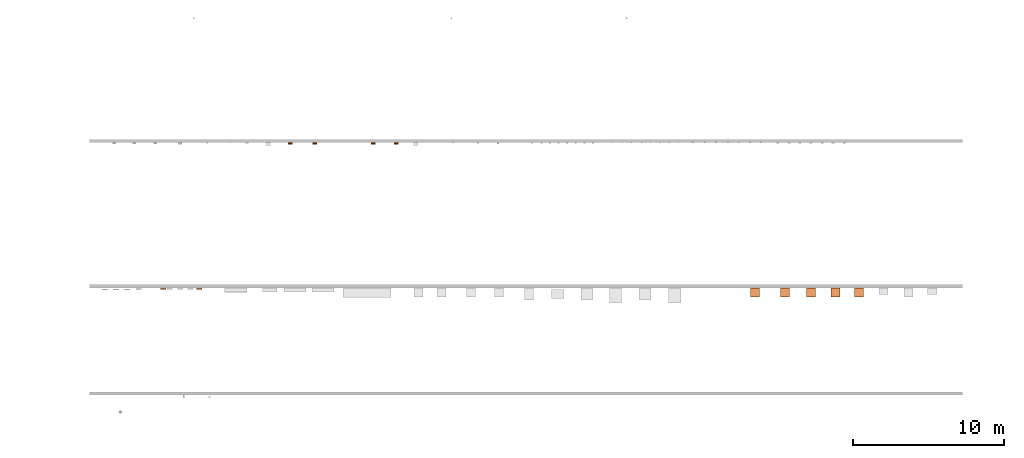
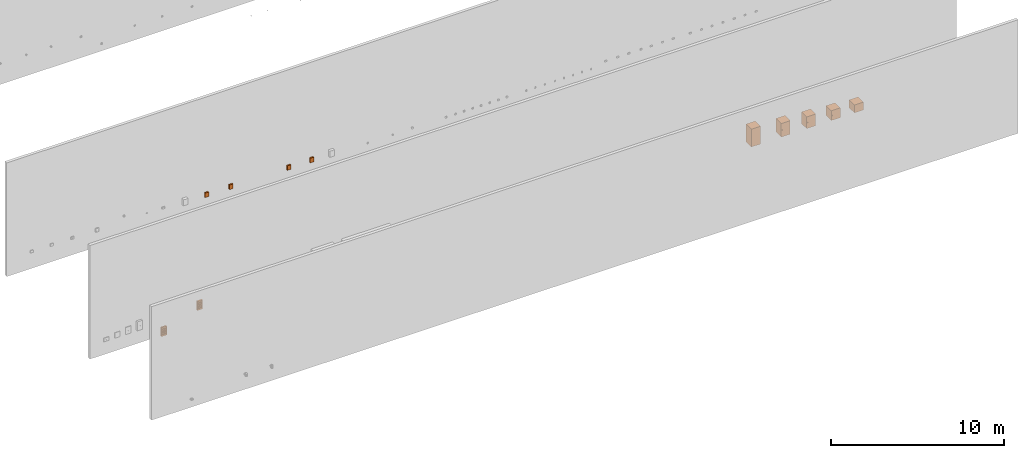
# One storey, part 49 of 197: 11 proxies.
"""IFC2X3 building model written with IfcOpenShell, lengths in metres."""

import ifcopenshell
import ifcopenshell.guid

model = None  # the IFC model being written
_history = None  # IfcOwnerHistory: only IFC2X3 demands one
_inside = {}  # id of a spatial element -> (the spatial element, [elements in it])
_under = {}  # id of a project, library or spatial element -> (it, [spatial elements below it])
_declared = {}  # id of a project -> (the project, [libraries it declares])
_typed = {}  # id of a type object -> (the type object, [elements of that type])
_made_of = {}  # id of a material, layer set ... -> (it, [elements and type objects made of it])


def new_model(schema):
    """Start an empty IFC model of exactly this schema.

    Asked for "IFC4X3", IfcOpenShell would pick the latest addendum, in which some entities
    have other attributes; the version numbers below select the first issue.
    IFC2X3 requires an IfcOwnerHistory on every rooted entity: one is made here for all.
    """
    global model, _history
    if schema == "IFC4X3":
        model = ifcopenshell.file(schema_version=(4, 3, 0, 0))
    else:
        model = ifcopenshell.file(schema=schema)
    _inside.clear()
    _under.clear()
    _declared.clear()
    _typed.clear()
    _made_of.clear()
    _history = None
    if model.schema == "IFC2X3":
        org = make("IfcOrganization", Name="unknown")
        user = make(
            "IfcPersonAndOrganization",
            ThePerson=make("IfcPerson", FamilyName="unknown"),
            TheOrganization=org,
        )
        app = make(
            "IfcApplication",
            ApplicationDeveloper=org,
            Version="unknown",
            ApplicationFullName="unknown",
            ApplicationIdentifier="unknown",
        )
        _history = make(
            "IfcOwnerHistory",
            OwningUser=user,
            OwningApplication=app,
            ChangeAction="ADDED",
            CreationDate=0,
        )
    return model


def make(cls, **values):
    """One entity of the class cls with the attributes given. An attribute that is None is left unset."""
    return model.create_entity(
        cls, **{name: value for name, value in values.items() if value is not None}
    )


def entity(cls, *values):
    """Any entity or typed value of the class cls, its attributes in the order of the schema. None: left unset."""
    e = model.create_entity(cls)
    for i, value in enumerate(values):
        if value is not None:
            e[i] = value
    return e


def rooted(cls, **values):
    """An entity with a GlobalId (a new one), such as an element, a storey or a relation."""
    return make(cls, GlobalId=ifcopenshell.guid.new(), OwnerHistory=_history, **values)


def si_unit(unit_type, name, prefix=None):
    """IfcSIUnit, for example si_unit("LENGTHUNIT", "METRE", prefix="MILLI")."""
    return make("IfcSIUnit", UnitType=unit_type, Prefix=prefix, Name=name)


def converted_unit(unit_type, name, factor, base, dimensions=None, offset=None):
    """IfcConversionBasedUnit, such as the inch: factor (a typed value) times the base unit."""
    return make(
        "IfcConversionBasedUnit"
        if offset is None
        else "IfcConversionBasedUnitWithOffset",
        ConversionOffset=offset,
        Dimensions=None
        if dimensions is None
        else entity("IfcDimensionalExponents", *dimensions),
        UnitType=unit_type,
        Name=name,
        ConversionFactor=make(
            "IfcMeasureWithUnit", ValueComponent=factor, UnitComponent=base
        ),
    )


def assignment(units):
    """IfcUnitAssignment: the units of a project."""
    return None if units is None else make("IfcUnitAssignment", Units=units)


def point(xyz):
    """IfcCartesianPoint."""
    return None if xyz is None else make("IfcCartesianPoint", Coordinates=xyz)


def direction(xyz):
    """IfcDirection."""
    return None if xyz is None else make("IfcDirection", DirectionRatios=xyz)


def frame(location, z_axis=None, x_axis=None):
    """IfcAxis2Placement3D, a coordinate frame: its origin and axes. An axis left out is left unset."""
    return make(
        "IfcAxis2Placement3D",
        Location=point(location),
        Axis=direction(z_axis),
        RefDirection=direction(x_axis),
    )


def frame_2d(location, x_axis=None):
    """IfcAxis2Placement2D, a coordinate frame in the plane: its origin and x axis."""
    return make(
        "IfcAxis2Placement2D", Location=point(location), RefDirection=direction(x_axis)
    )


def origin():
    """The frame at (0, 0, 0) with its axes left unset."""
    return frame((0.0, 0.0, 0.0))


def origin_2d_with_axis():
    """The frame at (0, 0) in the plane with the x axis (1, 0) written out."""
    return frame_2d((0.0, 0.0), x_axis=(1.0, 0.0))


def place(relative_to, where):
    """IfcLocalPlacement: puts the frame where relative to a parent placement (None: the world)."""
    return make(
        "IfcLocalPlacement", PlacementRelTo=relative_to, RelativePlacement=where
    )


def context(
    kind, dimensions, precision=None, world=None, true_north=None, identifier=None
):
    """IfcGeometricRepresentationContext, for example the 3D "Model" context."""
    return make(
        "IfcGeometricRepresentationContext",
        ContextIdentifier=identifier,
        ContextType=kind,
        CoordinateSpaceDimension=dimensions,
        Precision=precision,
        WorldCoordinateSystem=world,
        TrueNorth=true_north,
    )


def subcontext(parent, identifier, kind, view, scale=None):
    """IfcGeometricRepresentationSubContext, for example "Body" below "Model"."""
    return make(
        "IfcGeometricRepresentationSubContext",
        ContextIdentifier=identifier,
        ContextType=kind,
        ParentContext=parent,
        TargetScale=scale,
        TargetView=view,
    )


def project(units=None, contexts=None):
    """IfcProject with its units and contexts."""
    return rooted(
        "IfcProject",
        Name="project",
        RepresentationContexts=contexts,
        UnitsInContext=assignment(units),
    )


def spatial(cls, under=None, at=None, **own):
    """A site, building, storey or space (cls), placed at a placement, below another one or the project."""
    s = rooted(cls, ObjectPlacement=at, **own)
    if under is not None:
        _under.setdefault(under.id(), (under, []))[1].append(s)
    return s


def polyline(points):
    """IfcPolyline through the points."""
    return make("IfcPolyline", Points=[point(p) for p in points])


def circle_curve(where, radius):
    """IfcCircle in the frame where."""
    return make("IfcCircle", Position=where, Radius=radius)


def parameter(value):
    """IfcParameterValue: where a trimmed curve begins or ends, as a parameter of its basis curve."""
    return model.create_entity("IfcParameterValue", value)


def trimmed(basis, trim1, trim2, sense, master):
    """IfcTrimmedCurve: the piece of a basis curve between two trims."""
    return make(
        "IfcTrimmedCurve",
        BasisCurve=basis,
        Trim1=trim1,
        Trim2=trim2,
        SenseAgreement=sense,
        MasterRepresentation=master,
    )


def segment(curve, same_sense, transition):
    """IfcCompositeCurveSegment."""
    return make(
        "IfcCompositeCurveSegment",
        Transition=transition,
        SameSense=same_sense,
        ParentCurve=curve,
    )


def composite_curve(segments, self_intersect=None):
    """IfcCompositeCurve: segments joined end to end."""
    return make("IfcCompositeCurve", Segments=segments, SelfIntersect=self_intersect)


def profile(cls, at=None, kind="AREA", **sizes):
    """A parametric profile (cls). Its sizes go by their IFC names, for example OverallWidth=200.0."""
    return make(cls, ProfileType=kind, Position=at, **sizes)


def rectangle(**sizes):
    """IfcRectangleProfileDef."""
    return profile("IfcRectangleProfileDef", **sizes)


def outline(outer, holes=None, kind="AREA"):
    """IfcArbitraryClosedProfileDef: a profile drawn as a closed curve; with holes, ...WithVoids."""
    if holes is None:
        return make("IfcArbitraryClosedProfileDef", ProfileType=kind, OuterCurve=outer)
    return make(
        "IfcArbitraryProfileDefWithVoids",
        ProfileType=kind,
        OuterCurve=outer,
        InnerCurves=holes,
    )


def extrude(swept, where, along, depth):
    """IfcExtrudedAreaSolid: the profile swept, set in the frame where, extruded along a direction by depth."""
    return make(
        "IfcExtrudedAreaSolid",
        SweptArea=swept,
        Position=where,
        ExtrudedDirection=direction(along),
        Depth=depth,
    )


def faces_of(points, faces, orient=None, outer=None):
    """IfcFace entities. A face is a list of loops; a loop is a list of indices into points, from 0.

    orient and outer hold one flag for each loop. By default every Orientation is true, the
    first loop of a face is its IfcFaceOuterBound and the others are IfcFaceBound.
    """
    made = []
    for i, loops in enumerate(faces):
        bounds = []
        for j, loop in enumerate(loops):
            is_outer = j == 0 if outer is None else outer[i][j]
            bounds.append(
                make(
                    "IfcFaceOuterBound" if is_outer else "IfcFaceBound",
                    Bound=make("IfcPolyLoop", Polygon=[points[k] for k in loop]),
                    Orientation=True if orient is None else orient[i][j],
                )
            )
        made.append(make("IfcFace", Bounds=bounds))
    return made


def faceted_brep(points, faces, orient=None, outer=None, voids=None):
    """IfcFacetedBrep: a solid bounded by flat faces; with voids (closed shells), ...WithVoids."""
    shared = [point(p) for p in points]
    hull = make("IfcClosedShell", CfsFaces=faces_of(shared, faces, orient, outer))
    if voids is None:
        return make("IfcFacetedBrep", Outer=hull)
    return make(
        "IfcFacetedBrepWithVoids",
        Outer=hull,
        Voids=[
            make(cls, CfsFaces=faces_of(shared, fs, o, b)) for cls, fs, o, b in voids
        ],
    )


def shape(context_of_items, identifier, shape_type, items):
    """IfcShapeRepresentation: the items that make up one representation, for example the "Body"."""
    return make(
        "IfcShapeRepresentation",
        ContextOfItems=context_of_items,
        RepresentationIdentifier=identifier,
        RepresentationType=shape_type,
        Items=items,
    )


def source(mapping_origin, context_of_items, identifier, shape_type, items):
    """IfcRepresentationMap: a shape defined once, which mapped items show again and again."""
    return make(
        "IfcRepresentationMap",
        MappingOrigin=mapping_origin,
        MappedRepresentation=shape(context_of_items, identifier, shape_type, items),
    )


def transform(
    local_origin,
    x_axis=None,
    y_axis=None,
    z_axis=None,
    scale=None,
    scale2=None,
    scale3=None,
    uniform=True,
):
    """IfcCartesianTransformationOperator3D, or its non-uniform kind. x_axis, y_axis, z_axis: its Axis1, 2, 3."""
    if uniform:
        return make(
            "IfcCartesianTransformationOperator3D",
            Axis1=direction(x_axis),
            Axis2=direction(y_axis),
            LocalOrigin=point(local_origin),
            Scale=scale,
            Axis3=direction(z_axis),
        )
    return make(
        "IfcCartesianTransformationOperator3DnonUniform",
        Axis1=direction(x_axis),
        Axis2=direction(y_axis),
        LocalOrigin=point(local_origin),
        Scale=scale,
        Axis3=direction(z_axis),
        Scale2=scale2,
        Scale3=scale3,
    )


def mapped(mapping_source, mapping_target):
    """IfcMappedItem: shows the shape of a source again, moved by a transform."""
    return make(
        "IfcMappedItem", MappingSource=mapping_source, MappingTarget=mapping_target
    )


def material(Name=None, Category=None):
    """IfcMaterial."""
    return make("IfcMaterial", Name=Name, Category=Category)


def material_list(materials):
    """IfcMaterialList."""
    return make("IfcMaterialList", Materials=materials)


def made_of(thing, what):
    """Note that an element or type object is made of a material, layer set ...; save() writes the relation."""
    if what is not None:
        _made_of.setdefault(what.id(), (what, []))[1].append(thing)
    return thing


def type_object(cls, material=None, **own):
    """A type object (cls), such as IfcWallType, which elements share."""
    return made_of(rooted(cls, **own), material)


def type_shapes(of_type, sources):
    """Give a type object the sources (RepresentationMaps) that its elements show as mapped items."""
    of_type.RepresentationMaps = sources


def element(
    cls,
    number,
    at=None,
    inside=None,
    cuts=None,
    type_object=None,
    material=None,
    context=None,
    identifier="Body",
    shape_type=None,
    held_by="IfcProductDefinitionShape",
    body=None,
    shapes=None,
    **own,
):
    """One element of the class cls, such as IfcWall. Its Tag is "e" and its number.

    at: its placement. inside: the storey or other place that contains it. cuts: it is an
    opening in that element (IfcRelVoidsElement). A single representation is given by context,
    identifier, shape_type and body (its items); several are given by shapes. held_by: the class
    of the entity that holds the representations. save() writes the other relations.
    """
    e = rooted(cls, Tag="e%d" % number, ObjectPlacement=at, **own)
    if body is not None:
        shapes = [shape(context, identifier, shape_type, body)]
    if shapes is not None:
        e.Representation = make(held_by, Representations=shapes)
    if inside is not None:
        _inside.setdefault(inside.id(), (inside, []))[1].append(e)
    if cuts is not None:
        rooted(
            "IfcRelVoidsElement", RelatingBuildingElement=cuts, RelatedOpeningElement=e
        )
    if type_object is not None:
        _typed.setdefault(type_object.id(), (type_object, []))[1].append(e)
    return made_of(e, material)


def aggregate(whole, parts):
    """IfcRelAggregates: a whole, such as a stair, and the parts it consists of."""
    return rooted("IfcRelAggregates", RelatingObject=whole, RelatedObjects=parts)


def save(model, path):
    """Write the relations noted so far, then the file.

    IfcRelAggregates (storeys below a building ...), IfcRelContainedInSpatialStructure (elements
    in a storey), IfcRelDefinesByType, IfcRelAssociatesMaterial and IfcRelDeclares: one each for
    every whole, place, type object, material and project.
    """
    for whole, parts in _under.values():
        aggregate(whole, parts)
    for where, things in _inside.values():
        rooted(
            "IfcRelContainedInSpatialStructure",
            RelatedElements=things,
            RelatingStructure=where,
        )
    for kind, things in _typed.values():
        rooted("IfcRelDefinesByType", RelatedObjects=things, RelatingType=kind)
    for what, things in _made_of.values():
        rooted("IfcRelAssociatesMaterial", RelatedObjects=things, RelatingMaterial=what)
    for by, libraries in _declared.values():
        rooted("IfcRelDeclares", RelatingContext=by, RelatedDefinitions=libraries)
    model.write(path)


model = new_model("IFC2X3")

# Units and contexts
model_context = context("Model", 3, precision=1e-05, world=origin(), true_north=direction((6.123031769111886e-17, 1.0)))
body_context = subcontext(model_context, "Body", "Model", "MODEL_VIEW")
ifc_project = project(units=[si_unit("LENGTHUNIT", "METRE"), converted_unit("PLANEANGLEUNIT", "DEGREE", entity("IfcPlaneAngleMeasure", 0.017453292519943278), si_unit("PLANEANGLEUNIT", "RADIAN"), dimensions=[0, 0, 0, 0, 0, 0, 0]), si_unit("AREAUNIT", "SQUARE_METRE")], contexts=[model_context])

# Site, building, storey
site_placement = place(None, origin())
site = spatial("IfcSite", under=ifc_project, at=site_placement, Name="Default", CompositionType="ELEMENT")
building_placement = place(site_placement, origin())
building = spatial("IfcBuilding", under=site, at=building_placement, CompositionType="ELEMENT")
storey_placement = place(building_placement, origin())
storey = spatial("IfcBuildingStorey", under=building, at=storey_placement, Name="Niveau 0", CompositionType="ELEMENT", Elevation=0.0)

# Proxies
ifc_material_1 = material(Name="<Unnamed>")
building_element_proxy_type_1 = type_object("IfcBuildingElementProxyType", Name="Coffret UTL:UTL contrôle accés - alim non secourue-8E/4S", PredefinedType="NOTDEFINED", material=ifc_material_1)
shared_shape_1 = source(origin(), body_context, "Body", "SweptSolid", [
    extrude(rectangle(XDim=0.25, YDim=0.09300000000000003, at=origin_2d_with_axis()), frame((0.0, -0.0465000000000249, 0.0), z_axis=(0.0, 0.0, 1.0), x_axis=(-1.0, 0.0, 0.0)), (0.0, 0.0, 1.0), 0.32700000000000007),
])
type_shapes(building_element_proxy_type_1, [shared_shape_1])
proxy_1_placement = place(storey_placement, frame((-521.605257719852, -41.558644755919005, 1.0)))
element("IfcBuildingElementProxy", 1, at=proxy_1_placement, inside=storey, type_object=building_element_proxy_type_1, material=ifc_material_1, Name="Coffret UTL:UTL contrôle accés - alim non secourue-8E/4S", ObjectType="Coffret UTL:UTL contrôle accés - alim non secourue-8E/4S", context=body_context, shape_type="MappedRepresentation", body=[
    mapped(shared_shape_1, transform((0.0, 0.0, 0.0), scale=1.0)),
])
building_element_proxy_type_2 = type_object("IfcBuildingElementProxyType", Name="Coffret UTL:UTL contrôle accés - alim secourue-8E/4S", PredefinedType="NOTDEFINED", material=ifc_material_1)
shared_shape_2 = source(origin(), body_context, "Body", "SweptSolid", [
    extrude(rectangle(XDim=0.25, YDim=0.09300000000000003, at=origin_2d_with_axis()), frame((0.0, -0.0465000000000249, 0.0), z_axis=(0.0, 0.0, 1.0), x_axis=(-1.0, 0.0, 0.0)), (0.0, 0.0, 1.0), 0.32700000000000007),
])
type_shapes(building_element_proxy_type_2, [shared_shape_2])
proxy_2_placement = place(storey_placement, frame((-520.086257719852, -41.55864475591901, 1.0)))
element("IfcBuildingElementProxy", 2, at=proxy_2_placement, inside=storey, type_object=building_element_proxy_type_2, material=ifc_material_1, Name="Coffret UTL:UTL contrôle accés - alim secourue-8E/4S", ObjectType="Coffret UTL:UTL contrôle accés - alim secourue-8E/4S", context=body_context, shape_type="MappedRepresentation", body=[
    mapped(shared_shape_2, transform((0.0, 0.0, 0.0), scale=1.0)),
])
building_element_proxy_type_3 = type_object("IfcBuildingElementProxyType", Name="Coffret UTL:UTL intrusion - alim non secourue-8E/4S", PredefinedType="NOTDEFINED", material=ifc_material_1)
shared_shape_3 = source(origin(), body_context, "Body", "SweptSolid", [
    extrude(rectangle(XDim=0.25, YDim=0.09300000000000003, at=origin_2d_with_axis()), frame((0.0, -0.0465000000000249, 0.0), z_axis=(0.0, 0.0, 1.0), x_axis=(-1.0, 0.0, 0.0)), (0.0, 0.0, 1.0), 0.32700000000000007),
])
type_shapes(building_element_proxy_type_3, [shared_shape_3])
proxy_3_placement = place(storey_placement, frame((-527.0854678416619, -41.55864475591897, 1.0)))
element("IfcBuildingElementProxy", 3, at=proxy_3_placement, inside=storey, type_object=building_element_proxy_type_3, material=ifc_material_1, Name="Coffret UTL:UTL intrusion - alim non secourue-8E/4S", ObjectType="Coffret UTL:UTL intrusion - alim non secourue-8E/4S", context=body_context, shape_type="MappedRepresentation", body=[
    mapped(shared_shape_3, transform((0.0, 0.0, 0.0), scale=1.0)),
])
building_element_proxy_type_4 = type_object("IfcBuildingElementProxyType", Name="Coffret UTL:UTL intrusion - alim secourue-8E/4S", PredefinedType="NOTDEFINED", material=ifc_material_1)
shared_shape_4 = source(origin(), body_context, "Body", "SweptSolid", [
    extrude(rectangle(XDim=0.25, YDim=0.09300000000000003, at=origin_2d_with_axis()), frame((0.0, -0.0465000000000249, 0.0), z_axis=(0.0, 0.0, 1.0), x_axis=(-1.0, 0.0, 0.0)), (0.0, 0.0, 1.0), 0.32700000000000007),
])
type_shapes(building_element_proxy_type_4, [shared_shape_4])
proxy_4_placement = place(storey_placement, frame((-525.4634678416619, -41.558644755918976, 1.0)))
element("IfcBuildingElementProxy", 4, at=proxy_4_placement, inside=storey, type_object=building_element_proxy_type_4, material=ifc_material_1, Name="Coffret UTL:UTL intrusion - alim secourue-8E/4S", ObjectType="Coffret UTL:UTL intrusion - alim secourue-8E/4S", context=body_context, shape_type="MappedRepresentation", body=[
    mapped(shared_shape_4, transform((0.0, 0.0, 0.0), scale=1.0)),
])
ifc_material_2 = material(Name="BETCE-TABLEAU-BLANC")
building_element_proxy_type_5 = type_object("IfcBuildingElementProxyType", Name="Coffret mural 18 modules:72M-4R", PredefinedType="NOTDEFINED", material=ifc_material_2)
shared_shape_5 = source(origin(), body_context, "Body", "Brep", [
    faceted_brep([(0.17750000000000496, -0.1034999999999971, 0.6249999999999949), (-0.17749999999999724, -0.1034999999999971, 0.6249999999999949), (-0.1775, -0.1034999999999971, 0.0), (0.17750000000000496, -0.1034999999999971, 0.0), (-0.1619999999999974, -0.1034999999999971, 0.1475000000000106), (0.1620000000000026, -0.1034999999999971, 0.1475000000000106), (0.1620000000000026, -0.1034999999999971, 0.10250000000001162), (-0.16199999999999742, -0.1034999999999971, 0.10250000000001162), (-0.1619999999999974, -0.1034999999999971, 0.2725000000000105), (0.1620000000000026, -0.1034999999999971, 0.2725000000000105), (0.1620000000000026, -0.1034999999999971, 0.22750000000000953), (-0.16199999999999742, -0.1034999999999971, 0.22750000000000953), (-0.1619999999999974, -0.1034999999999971, 0.5225000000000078), (0.1620000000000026, -0.1034999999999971, 0.5225000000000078), (0.1620000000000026, -0.1034999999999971, 0.47750000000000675), (-0.16199999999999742, -0.1034999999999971, 0.47750000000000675), (-0.1619999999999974, -0.1034999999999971, 0.39750000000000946), (0.1620000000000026, -0.1034999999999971, 0.39750000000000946), (0.1620000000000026, -0.1034999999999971, 0.3525000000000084), (-0.16199999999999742, -0.1034999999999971, 0.3525000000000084), (0.17750000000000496, 0.0, 0.6249999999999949), (0.17750000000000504, 0.0, 0.0), (-0.1775, 0.0, 0.0), (-0.17749999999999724, 0.0, 0.6249999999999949), (0.16200000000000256, -0.01, 0.1475000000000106), (-0.16199999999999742, -0.01, 0.1475000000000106), (-0.16199999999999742, -0.01, 0.10250000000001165), (0.16200000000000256, -0.01, 0.10250000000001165), (0.16200000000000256, -0.01, 0.2725000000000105), (-0.16199999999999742, -0.01, 0.2725000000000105), (-0.16199999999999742, -0.01, 0.22750000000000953), (0.16200000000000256, -0.01, 0.22750000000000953), (0.16200000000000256, -0.01, 0.5225000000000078), (-0.16199999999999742, -0.01, 0.5225000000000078), (-0.16199999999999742, -0.01, 0.47750000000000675), (0.16200000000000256, -0.01, 0.47750000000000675), (0.16200000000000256, -0.01, 0.39750000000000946), (-0.16199999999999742, -0.01, 0.39750000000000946), (-0.16199999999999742, -0.01, 0.3525000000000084), (0.16200000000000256, -0.01, 0.3525000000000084)], [[[0, 1, 2, 3], [4, 5, 6, 7], [8, 9, 10, 11], [12, 13, 14, 15], [16, 17, 18, 19]], [[20, 21, 22, 23]], [[1, 0, 20, 23]], [[2, 1, 23, 22]], [[3, 2, 22, 21]], [[0, 3, 21, 20]], [[24, 25, 26, 27]], [[25, 24, 5, 4]], [[26, 25, 4, 7]], [[27, 26, 7, 6]], [[24, 27, 6, 5]], [[28, 29, 30, 31]], [[29, 28, 9, 8]], [[30, 29, 8, 11]], [[31, 30, 11, 10]], [[28, 31, 10, 9]], [[32, 33, 34, 35]], [[33, 32, 13, 12]], [[34, 33, 12, 15]], [[35, 34, 15, 14]], [[32, 35, 14, 13]], [[36, 37, 38, 39]], [[37, 36, 17, 16]], [[38, 37, 16, 19]], [[39, 38, 19, 18]], [[36, 39, 18, 17]]]),
])
type_shapes(building_element_proxy_type_5, [shared_shape_5])
for number, where, name in (
    (5, (-533.0953416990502, -51.152644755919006, 1.0), "Coffret mural 18 modules:72M-4R"),
    (6, (-535.4855951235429, -51.152644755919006, 0.0), "Coffret mural 18 modules:72M-4R"),
):
    element("IfcBuildingElementProxy", number, at=place(storey_placement, frame(where)), inside=storey, type_object=building_element_proxy_type_5, material=ifc_material_2, Name=name, ObjectType="Coffret mural 18 modules:72M-4R", context=body_context, shape_type="MappedRepresentation", body=[
        mapped(shared_shape_5, transform((0.0, 0.0, 0.0), scale=1.0)),
    ])
ifc_material_3 = material(Name="A-PVC NOIR")
ifc_material_4 = material(Name="A-VERRE")
ifc_material_list = material_list([ifc_material_3, ifc_material_4])
building_element_proxy_type_6 = type_object("IfcBuildingElementProxyType", Name="Coffret de brassage mural:22U-600x600x1200", PredefinedType="NOTDEFINED", material=ifc_material_list)
shared_shape_6 = source(origin(), body_context, "Body", "SweptSolid", [
    extrude(outline(composite_curve([segment(polyline([(0.0008223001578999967, -0.003777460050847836), (0.010844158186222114, -0.003777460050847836)]), True, "CONTINUOUS"), segment(polyline([(0.010844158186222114, -0.003777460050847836), (0.010844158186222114, -0.0028735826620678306)]), True, "CONTINUOUS"), segment(trimmed(circle_curve(frame_2d((0.008844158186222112, -0.0028735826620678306), x_axis=(-1.0, 0.0)), 0.002), [parameter(180.00000000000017)], [parameter(238.15936917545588)], True, "PARAMETER"), True, "CONTINUOUS"), segment(trimmed(circle_curve(frame_2d((-0.014278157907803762, -0.04010707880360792), x_axis=(-1.0, 0.0)), 0.04582892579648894), [parameter(238.1593691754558)], [parameter(270.2235478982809)], True, "PARAMETER"), True, "CONTINUOUS"), segment(polyline([(-0.014456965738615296, 0.0057214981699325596), (-0.014456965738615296, 0.004721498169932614)]), True, "CONTINUOUS"), segment(polyline([(-0.014456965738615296, 0.004721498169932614), (-0.0034959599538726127, 0.001160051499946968)]), True, "CONTINUOUS"), segment(trimmed(circle_curve(frame_2d((-0.005473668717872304, -0.004926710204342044), x_axis=(-1.0, 0.0)), 0.0064), [parameter(190.34473412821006)], [parameter(251.99999999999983)], True, "PARAMETER"), False, "CONTINUOUS")], self_intersect=False)), frame((-0.23015584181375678, -0.30377746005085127, 0.5959999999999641), z_axis=(0.0, 0.0, 1.0), x_axis=(-1.0, 0.0, 0.0)), (0.0, 0.0, 1.0), 0.06000000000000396),
    extrude(rectangle(XDim=0.4999999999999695, YDim=0.005000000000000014, at=origin_2d_with_axis()), frame((0.0, -0.2975000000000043, 0.05199999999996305)), (0.0, 0.0, 1.0), 1.1479999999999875),
    extrude(rectangle(XDim=0.5999999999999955, YDim=0.5999999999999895, at=origin_2d_with_axis()), frame((0.0, 0.0, 1.199999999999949), z_axis=(0.0, 0.0, 1.0), x_axis=(-1.0, 0.0, 0.0)), (0.0, 0.0, 1.0), 0.0520000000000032),
    extrude(rectangle(XDim=0.5999999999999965, YDim=0.5999999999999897, at=origin_2d_with_axis()), frame((0.0, 0.0, 0.0), z_axis=(0.0, 0.0, 1.0), x_axis=(-1.0, 0.0, 0.0)), (0.0, 0.0, 1.0), 0.052000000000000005),
    extrude(outline(polyline([(-0.2999999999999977, -0.435699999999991), (0.2999999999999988, -0.435699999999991), (0.2999999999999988, 0.16429999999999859), (0.24999999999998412, 0.16429999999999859), (0.24999999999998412, 0.05429999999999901), (0.2249999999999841, 0.05429999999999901), (0.2249999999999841, 0.053299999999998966), (0.2509999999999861, 0.053299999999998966), (0.2509999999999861, 0.16329999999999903), (0.29899999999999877, 0.16329999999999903), (0.29899999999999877, -0.4346999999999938), (-0.2989999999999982, -0.4346999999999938), (-0.2989999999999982, 0.16329999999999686), (-0.2509999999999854, 0.16329999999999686), (-0.2509999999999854, 0.05329999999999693), (-0.22499999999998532, 0.05329999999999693), (-0.22499999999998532, 0.05429999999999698), (-0.2499999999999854, 0.05429999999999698), (-0.2499999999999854, 0.16429999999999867), (-0.2999999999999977, 0.16429999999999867), (-0.2999999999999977, -0.435699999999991)])), frame((0.0, -0.13570000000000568, 0.05199999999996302), z_axis=(0.0, 0.0, 1.0), x_axis=(-1.0, 0.0, 0.0)), (0.0, 0.0, 1.0), 1.1479999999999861),
])
type_shapes(building_element_proxy_type_6, [shared_shape_6])
proxy_5_placement = place(storey_placement, frame((-496.351595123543, -51.45264475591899, 0.0)))
element("IfcBuildingElementProxy", 7, at=proxy_5_placement, inside=storey, type_object=building_element_proxy_type_6, material=ifc_material_list, Name="Coffret de brassage mural:22U-600x600x1200", ObjectType="Coffret de brassage mural:22U-600x600x1200", context=body_context, shape_type="MappedRepresentation", body=[
    mapped(shared_shape_6, transform((0.0, 0.0, 0.0), scale=1.0)),
])
building_element_proxy_type_7 = type_object("IfcBuildingElementProxyType", Name="Coffret de brassage mural:18U-600x600x900", PredefinedType="NOTDEFINED", material=ifc_material_list)
shared_shape_7 = source(origin(), body_context, "Body", "SweptSolid", [
    extrude(outline(composite_curve([segment(polyline([(0.0008223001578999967, -0.003777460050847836), (0.010844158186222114, -0.003777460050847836)]), True, "CONTINUOUS"), segment(polyline([(0.010844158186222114, -0.003777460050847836), (0.010844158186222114, -0.0028735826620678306)]), True, "CONTINUOUS"), segment(trimmed(circle_curve(frame_2d((0.008844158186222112, -0.0028735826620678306), x_axis=(-1.0, 0.0)), 0.002), [parameter(180.00000000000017)], [parameter(238.15936917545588)], True, "PARAMETER"), True, "CONTINUOUS"), segment(trimmed(circle_curve(frame_2d((-0.014278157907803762, -0.04010707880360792), x_axis=(-1.0, 0.0)), 0.04582892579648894), [parameter(238.1593691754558)], [parameter(270.2235478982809)], True, "PARAMETER"), True, "CONTINUOUS"), segment(polyline([(-0.014456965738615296, 0.0057214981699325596), (-0.014456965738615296, 0.004721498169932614)]), True, "CONTINUOUS"), segment(polyline([(-0.014456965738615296, 0.004721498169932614), (-0.0034959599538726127, 0.001160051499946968)]), True, "CONTINUOUS"), segment(trimmed(circle_curve(frame_2d((-0.005473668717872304, -0.004926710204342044), x_axis=(-1.0, 0.0)), 0.0064), [parameter(190.34473412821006)], [parameter(251.99999999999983)], True, "PARAMETER"), False, "CONTINUOUS")], self_intersect=False)), frame((-0.23015584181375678, -0.30377746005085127, 0.44599999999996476), z_axis=(0.0, 0.0, 1.0), x_axis=(-1.0, 0.0, 0.0)), (0.0, 0.0, 1.0), 0.06000000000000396),
    extrude(rectangle(XDim=0.4999999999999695, YDim=0.005000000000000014, at=origin_2d_with_axis()), frame((0.0, -0.2975000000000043, 0.05199999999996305)), (0.0, 0.0, 1.0), 0.8479999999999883),
    extrude(rectangle(XDim=0.5999999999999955, YDim=0.5999999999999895, at=origin_2d_with_axis()), frame((0.0, 0.0, 0.89999999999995), z_axis=(0.0, 0.0, 1.0), x_axis=(-1.0, 0.0, 0.0)), (0.0, 0.0, 1.0), 0.0520000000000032),
    extrude(rectangle(XDim=0.5999999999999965, YDim=0.5999999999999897, at=origin_2d_with_axis()), frame((0.0, 0.0, 0.0), z_axis=(0.0, 0.0, 1.0), x_axis=(-1.0, 0.0, 0.0)), (0.0, 0.0, 1.0), 0.052000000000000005),
    extrude(outline(polyline([(-0.2999999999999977, -0.435699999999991), (0.2999999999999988, -0.435699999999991), (0.2999999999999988, 0.16429999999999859), (0.24999999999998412, 0.16429999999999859), (0.24999999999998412, 0.05429999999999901), (0.2249999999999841, 0.05429999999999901), (0.2249999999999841, 0.053299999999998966), (0.2509999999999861, 0.053299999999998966), (0.2509999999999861, 0.16329999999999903), (0.29899999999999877, 0.16329999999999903), (0.29899999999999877, -0.4346999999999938), (-0.2989999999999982, -0.4346999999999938), (-0.2989999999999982, 0.16329999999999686), (-0.2509999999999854, 0.16329999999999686), (-0.2509999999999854, 0.05329999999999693), (-0.22499999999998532, 0.05329999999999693), (-0.22499999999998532, 0.05429999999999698), (-0.2499999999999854, 0.05429999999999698), (-0.2499999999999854, 0.16429999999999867), (-0.2999999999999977, 0.16429999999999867), (-0.2999999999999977, -0.435699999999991)])), frame((0.0, -0.13570000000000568, 0.05199999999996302), z_axis=(0.0, 0.0, 1.0), x_axis=(-1.0, 0.0, 0.0)), (0.0, 0.0, 1.0), 0.847999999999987),
])
type_shapes(building_element_proxy_type_7, [shared_shape_7])
proxy_6_placement = place(storey_placement, frame((-494.364595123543, -51.45264475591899, 0.0)))
element("IfcBuildingElementProxy", 8, at=proxy_6_placement, inside=storey, type_object=building_element_proxy_type_7, material=ifc_material_list, Name="Coffret de brassage mural:18U-600x600x900", ObjectType="Coffret de brassage mural:18U-600x600x900", context=body_context, shape_type="MappedRepresentation", body=[
    mapped(shared_shape_7, transform((0.0, 0.0, 0.0), scale=1.0)),
])
building_element_proxy_type_8 = type_object("IfcBuildingElementProxyType", Name="Coffret de brassage mural:15U-600x600x770", PredefinedType="NOTDEFINED", material=ifc_material_list)
shared_shape_8 = source(origin(), body_context, "Body", "SweptSolid", [
    extrude(outline(composite_curve([segment(polyline([(0.0008223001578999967, -0.003777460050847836), (0.010844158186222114, -0.003777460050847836)]), True, "CONTINUOUS"), segment(polyline([(0.010844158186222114, -0.003777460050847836), (0.010844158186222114, -0.0028735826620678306)]), True, "CONTINUOUS"), segment(trimmed(circle_curve(frame_2d((0.008844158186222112, -0.0028735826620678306), x_axis=(-1.0, 0.0)), 0.002), [parameter(180.00000000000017)], [parameter(238.15936917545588)], True, "PARAMETER"), True, "CONTINUOUS"), segment(trimmed(circle_curve(frame_2d((-0.014278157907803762, -0.04010707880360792), x_axis=(-1.0, 0.0)), 0.04582892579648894), [parameter(238.1593691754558)], [parameter(270.2235478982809)], True, "PARAMETER"), True, "CONTINUOUS"), segment(polyline([(-0.014456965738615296, 0.0057214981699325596), (-0.014456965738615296, 0.004721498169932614)]), True, "CONTINUOUS"), segment(polyline([(-0.014456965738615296, 0.004721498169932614), (-0.0034959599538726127, 0.001160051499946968)]), True, "CONTINUOUS"), segment(trimmed(circle_curve(frame_2d((-0.005473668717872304, -0.004926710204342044), x_axis=(-1.0, 0.0)), 0.0064), [parameter(190.34473412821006)], [parameter(251.99999999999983)], True, "PARAMETER"), False, "CONTINUOUS")], self_intersect=False)), frame((-0.23015584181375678, -0.30377746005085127, 0.38099999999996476), z_axis=(0.0, 0.0, 1.0), x_axis=(-1.0, 0.0, 0.0)), (0.0, 0.0, 1.0), 0.06000000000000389),
    extrude(rectangle(XDim=0.4999999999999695, YDim=0.005000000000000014, at=origin_2d_with_axis()), frame((0.0, -0.2975000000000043, 0.05199999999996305)), (0.0, 0.0, 1.0), 0.7179999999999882),
    extrude(rectangle(XDim=0.5999999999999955, YDim=0.5999999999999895, at=origin_2d_with_axis()), frame((0.0, 0.0, 0.76999999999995), z_axis=(0.0, 0.0, 1.0), x_axis=(-1.0, 0.0, 0.0)), (0.0, 0.0, 1.0), 0.0520000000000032),
    extrude(rectangle(XDim=0.5999999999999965, YDim=0.5999999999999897, at=origin_2d_with_axis()), frame((0.0, 0.0, 0.0), z_axis=(0.0, 0.0, 1.0), x_axis=(-1.0, 0.0, 0.0)), (0.0, 0.0, 1.0), 0.052000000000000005),
    extrude(outline(polyline([(-0.2999999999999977, -0.435699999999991), (0.2999999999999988, -0.435699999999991), (0.2999999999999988, 0.16429999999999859), (0.24999999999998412, 0.16429999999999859), (0.24999999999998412, 0.05429999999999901), (0.2249999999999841, 0.05429999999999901), (0.2249999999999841, 0.053299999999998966), (0.2509999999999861, 0.053299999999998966), (0.2509999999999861, 0.16329999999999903), (0.29899999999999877, 0.16329999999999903), (0.29899999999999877, -0.4346999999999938), (-0.2989999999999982, -0.4346999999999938), (-0.2989999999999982, 0.16329999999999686), (-0.2509999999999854, 0.16329999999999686), (-0.2509999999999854, 0.05329999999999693), (-0.22499999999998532, 0.05329999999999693), (-0.22499999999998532, 0.05429999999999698), (-0.2499999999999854, 0.05429999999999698), (-0.2499999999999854, 0.16429999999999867), (-0.2999999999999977, 0.16429999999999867), (-0.2999999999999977, -0.435699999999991)])), frame((0.0, -0.13570000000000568, 0.05199999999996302), z_axis=(0.0, 0.0, 1.0), x_axis=(-1.0, 0.0, 0.0)), (0.0, 0.0, 1.0), 0.7179999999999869),
])
type_shapes(building_element_proxy_type_8, [shared_shape_8])
proxy_7_placement = place(storey_placement, frame((-492.66459512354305, -51.45264475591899, 0.0)))
element("IfcBuildingElementProxy", 9, at=proxy_7_placement, inside=storey, type_object=building_element_proxy_type_8, material=ifc_material_list, Name="Coffret de brassage mural:15U-600x600x770", ObjectType="Coffret de brassage mural:15U-600x600x770", context=body_context, shape_type="MappedRepresentation", body=[
    mapped(shared_shape_8, transform((0.0, 0.0, 0.0), scale=1.0)),
])
building_element_proxy_type_9 = type_object("IfcBuildingElementProxyType", Name="Coffret de brassage mural:12U-600x600x635", PredefinedType="NOTDEFINED", material=ifc_material_list)
shared_shape_9 = source(origin(), body_context, "Body", "SweptSolid", [
    extrude(outline(composite_curve([segment(polyline([(0.0008223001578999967, -0.003777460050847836), (0.010844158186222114, -0.003777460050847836)]), True, "CONTINUOUS"), segment(polyline([(0.010844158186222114, -0.003777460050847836), (0.010844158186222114, -0.0028735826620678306)]), True, "CONTINUOUS"), segment(trimmed(circle_curve(frame_2d((0.008844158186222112, -0.0028735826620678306), x_axis=(-1.0, 0.0)), 0.002), [parameter(180.00000000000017)], [parameter(238.15936917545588)], True, "PARAMETER"), True, "CONTINUOUS"), segment(trimmed(circle_curve(frame_2d((-0.014278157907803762, -0.04010707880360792), x_axis=(-1.0, 0.0)), 0.04582892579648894), [parameter(238.1593691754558)], [parameter(270.2235478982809)], True, "PARAMETER"), True, "CONTINUOUS"), segment(polyline([(-0.014456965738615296, 0.0057214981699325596), (-0.014456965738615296, 0.004721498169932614)]), True, "CONTINUOUS"), segment(polyline([(-0.014456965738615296, 0.004721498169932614), (-0.0034959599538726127, 0.001160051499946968)]), True, "CONTINUOUS"), segment(trimmed(circle_curve(frame_2d((-0.005473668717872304, -0.004926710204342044), x_axis=(-1.0, 0.0)), 0.0064), [parameter(190.34473412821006)], [parameter(251.99999999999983)], True, "PARAMETER"), False, "CONTINUOUS")], self_intersect=False)), frame((-0.23015584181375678, -0.30377746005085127, 0.3134999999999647), z_axis=(0.0, 0.0, 1.0), x_axis=(-1.0, 0.0, 0.0)), (0.0, 0.0, 1.0), 0.06000000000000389),
    extrude(rectangle(XDim=0.4999999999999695, YDim=0.005000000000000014, at=origin_2d_with_axis()), frame((0.0, -0.2975000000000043, 0.05199999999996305)), (0.0, 0.0, 1.0), 0.582999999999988),
    extrude(rectangle(XDim=0.5999999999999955, YDim=0.5999999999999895, at=origin_2d_with_axis()), frame((0.0, 0.0, 0.6349999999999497), z_axis=(0.0, 0.0, 1.0), x_axis=(-1.0, 0.0, 0.0)), (0.0, 0.0, 1.0), 0.0520000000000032),
    extrude(rectangle(XDim=0.5999999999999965, YDim=0.5999999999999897, at=origin_2d_with_axis()), frame((0.0, 0.0, 0.0), z_axis=(0.0, 0.0, 1.0), x_axis=(-1.0, 0.0, 0.0)), (0.0, 0.0, 1.0), 0.052000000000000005),
    extrude(outline(polyline([(-0.2999999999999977, -0.435699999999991), (0.2999999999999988, -0.435699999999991), (0.2999999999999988, 0.16429999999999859), (0.24999999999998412, 0.16429999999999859), (0.24999999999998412, 0.05429999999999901), (0.2249999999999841, 0.05429999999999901), (0.2249999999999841, 0.053299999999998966), (0.2509999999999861, 0.053299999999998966), (0.2509999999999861, 0.16329999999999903), (0.29899999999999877, 0.16329999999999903), (0.29899999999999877, -0.4346999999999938), (-0.2989999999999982, -0.4346999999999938), (-0.2989999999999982, 0.16329999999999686), (-0.2509999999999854, 0.16329999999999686), (-0.2509999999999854, 0.05329999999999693), (-0.22499999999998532, 0.05329999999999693), (-0.22499999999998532, 0.05429999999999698), (-0.2499999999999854, 0.05429999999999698), (-0.2499999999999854, 0.16429999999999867), (-0.2999999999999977, 0.16429999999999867), (-0.2999999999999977, -0.435699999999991)])), frame((0.0, -0.13570000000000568, 0.05199999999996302), z_axis=(0.0, 0.0, 1.0), x_axis=(-1.0, 0.0, 0.0)), (0.0, 0.0, 1.0), 0.5829999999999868),
])
type_shapes(building_element_proxy_type_9, [shared_shape_9])
proxy_8_placement = place(storey_placement, frame((-491.02859512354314, -51.45264475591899, 0.0)))
element("IfcBuildingElementProxy", 10, at=proxy_8_placement, inside=storey, type_object=building_element_proxy_type_9, material=ifc_material_list, Name="Coffret de brassage mural:12U-600x600x635", ObjectType="Coffret de brassage mural:12U-600x600x635", context=body_context, shape_type="MappedRepresentation", body=[
    mapped(shared_shape_9, transform((0.0, 0.0, 0.0), scale=1.0)),
])
building_element_proxy_type_10 = type_object("IfcBuildingElementProxyType", Name="Coffret de brassage mural:9U-600x600x500", PredefinedType="NOTDEFINED", material=ifc_material_list)
shared_shape_10 = source(origin(), body_context, "Body", "SweptSolid", [
    extrude(outline(composite_curve([segment(polyline([(0.0008223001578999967, -0.003777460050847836), (0.010844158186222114, -0.003777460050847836)]), True, "CONTINUOUS"), segment(polyline([(0.010844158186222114, -0.003777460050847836), (0.010844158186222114, -0.0028735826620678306)]), True, "CONTINUOUS"), segment(trimmed(circle_curve(frame_2d((0.008844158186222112, -0.0028735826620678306), x_axis=(-1.0, 0.0)), 0.002), [parameter(180.00000000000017)], [parameter(238.15936917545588)], True, "PARAMETER"), True, "CONTINUOUS"), segment(trimmed(circle_curve(frame_2d((-0.014278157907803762, -0.04010707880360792), x_axis=(-1.0, 0.0)), 0.04582892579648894), [parameter(238.1593691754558)], [parameter(270.2235478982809)], True, "PARAMETER"), True, "CONTINUOUS"), segment(polyline([(-0.014456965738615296, 0.0057214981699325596), (-0.014456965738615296, 0.004721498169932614)]), True, "CONTINUOUS"), segment(polyline([(-0.014456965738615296, 0.004721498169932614), (-0.0034959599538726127, 0.001160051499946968)]), True, "CONTINUOUS"), segment(trimmed(circle_curve(frame_2d((-0.005473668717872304, -0.004926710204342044), x_axis=(-1.0, 0.0)), 0.0064), [parameter(190.34473412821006)], [parameter(251.99999999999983)], True, "PARAMETER"), False, "CONTINUOUS")], self_intersect=False)), frame((-0.23015584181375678, -0.30377746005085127, 0.24599999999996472), z_axis=(0.0, 0.0, 1.0), x_axis=(-1.0, 0.0, 0.0)), (0.0, 0.0, 1.0), 0.06000000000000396),
    extrude(rectangle(XDim=0.4999999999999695, YDim=0.005000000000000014, at=origin_2d_with_axis()), frame((0.0, -0.2975000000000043, 0.05199999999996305)), (0.0, 0.0, 1.0), 0.4479999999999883),
    extrude(rectangle(XDim=0.5999999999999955, YDim=0.5999999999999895, at=origin_2d_with_axis()), frame((0.0, 0.0, 0.49999999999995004), z_axis=(0.0, 0.0, 1.0), x_axis=(-1.0, 0.0, 0.0)), (0.0, 0.0, 1.0), 0.05200000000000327),
    extrude(rectangle(XDim=0.5999999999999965, YDim=0.5999999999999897, at=origin_2d_with_axis()), frame((0.0, 0.0, 0.0), z_axis=(0.0, 0.0, 1.0), x_axis=(-1.0, 0.0, 0.0)), (0.0, 0.0, 1.0), 0.052000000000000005),
    extrude(outline(polyline([(-0.2999999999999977, -0.435699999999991), (0.2999999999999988, -0.435699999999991), (0.2999999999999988, 0.16429999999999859), (0.24999999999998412, 0.16429999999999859), (0.24999999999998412, 0.05429999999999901), (0.2249999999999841, 0.05429999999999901), (0.2249999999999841, 0.053299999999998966), (0.2509999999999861, 0.053299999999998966), (0.2509999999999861, 0.16329999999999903), (0.29899999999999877, 0.16329999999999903), (0.29899999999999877, -0.4346999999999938), (-0.2989999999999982, -0.4346999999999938), (-0.2989999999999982, 0.16329999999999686), (-0.2509999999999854, 0.16329999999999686), (-0.2509999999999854, 0.05329999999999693), (-0.22499999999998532, 0.05329999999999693), (-0.22499999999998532, 0.05429999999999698), (-0.2499999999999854, 0.05429999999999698), (-0.2499999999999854, 0.16429999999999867), (-0.2999999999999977, 0.16429999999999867), (-0.2999999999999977, -0.435699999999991)])), frame((0.0, -0.13570000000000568, 0.05199999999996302), z_axis=(0.0, 0.0, 1.0), x_axis=(-1.0, 0.0, 0.0)), (0.0, 0.0, 1.0), 0.4479999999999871),
])
type_shapes(building_element_proxy_type_10, [shared_shape_10])
proxy_9_placement = place(storey_placement, frame((-489.48659512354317, -51.45264475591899, 0.0)))
element("IfcBuildingElementProxy", 11, at=proxy_9_placement, inside=storey, type_object=building_element_proxy_type_10, material=ifc_material_list, Name="Coffret de brassage mural:9U-600x600x500", ObjectType="Coffret de brassage mural:9U-600x600x500", context=body_context, shape_type="MappedRepresentation", body=[
    mapped(shared_shape_10, transform((0.0, 0.0, 0.0), scale=1.0)),
])

save(model, "model.ifc")
